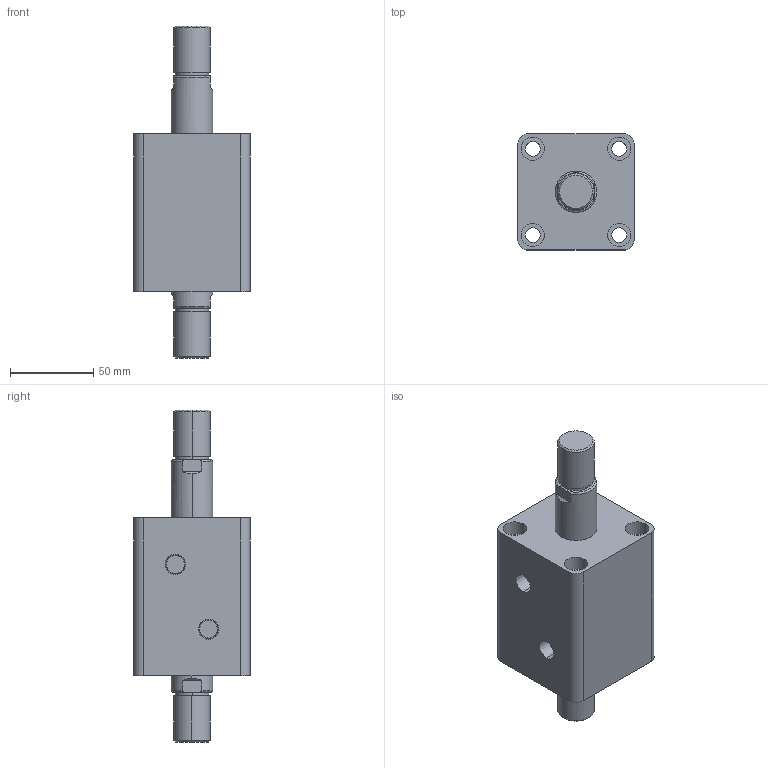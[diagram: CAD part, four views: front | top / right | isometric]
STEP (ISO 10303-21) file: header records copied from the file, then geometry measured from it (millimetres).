
FILE_DESCRIPTION (( 'STEP AP203' ), '1' );
FILE_NAME ('HTB-SW40-25W.STEP', '2019-10-07T09:06:30', ( '微软用户' ), ( '微软中国' ), 'SwSTEP 2.0', 'SolidWorks 2012', '' );
FILE_SCHEMA (( 'CONFIG_CONTROL_DESIGN' ));
Length unit declared in the file: millimetre
Products named in the file (3): HTB-SW40-25掛极; HTB-SW40-25W; HTB-SW40-25W活塞杆
Assembly tree (2 placements, depth 2):
  HTB-SW40-25W
    HTB-SW40-25掛极
    HTB-SW40-25W活塞杆
Bounding box: 70 x 70 x 200 mm (x, y, z)
Volume: 454881.1 mm3; surface area: 75799.8 mm2
Topology: 2 solids, 2 shells, 108 faces, 240 edges, 156 vertices
Faces by surface type: cylinder 52, plane 36, torus 12, cone 8
Entity records: 3449 total; most frequent: CARTESIAN_POINT 629, DIRECTION 586, ORIENTED_EDGE 480, AXIS2_PLACEMENT_3D 249, EDGE_CURVE 240, VERTEX_POINT 156, EDGE_LOOP 138, CIRCLE 136
